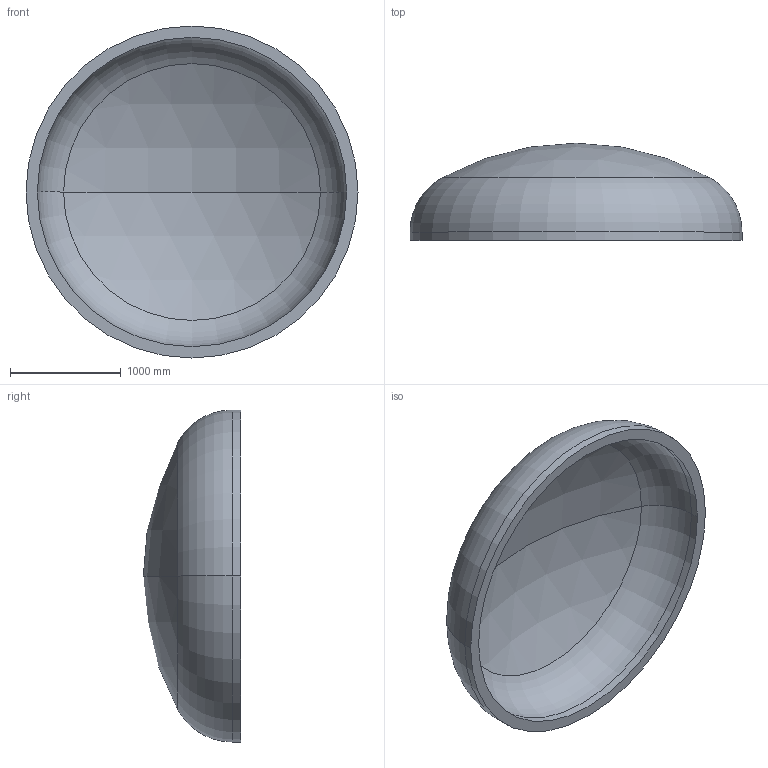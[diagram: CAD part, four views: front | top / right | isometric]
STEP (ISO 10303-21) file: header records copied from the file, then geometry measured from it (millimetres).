
FILE_DESCRIPTION (( 'STEP AP203' ), '1' );
FILE_NAME ('DIN 28013 Korbbogenform_-_Boden DIN 28013 - 3000 x 75 - I - s=102.step', '2016-07-01T18:07:33', ( '' ), ( '' ), 'SwSTEP 2.0', 'SolidWorks 2013', '' );
FILE_SCHEMA (( 'CONFIG_CONTROL_DESIGN' ));
Length unit declared in the file: millimetre
Products named in the file (1): DIN 28013 Korbbogenform_-_Boden DIN 28013 - 3000 x 75 - I - s=102
Bounding box: 3000 x 878.84 x 3000 mm (x, y, z)
Volume: 1024137814.1 mm3; surface area: 21031559.3 mm2
Topology: 1 solids, 1 shells, 13 faces, 24 edges, 14 vertices
Faces by surface type: torus 4, cylinder 4, sphere 4, plane 1
Entity records: 407 total; most frequent: DIRECTION 72, CARTESIAN_POINT 52, ORIENTED_EDGE 48, AXIS2_PLACEMENT_3D 34, EDGE_CURVE 24, CIRCLE 20, VERTEX_POINT 14, EDGE_LOOP 14
